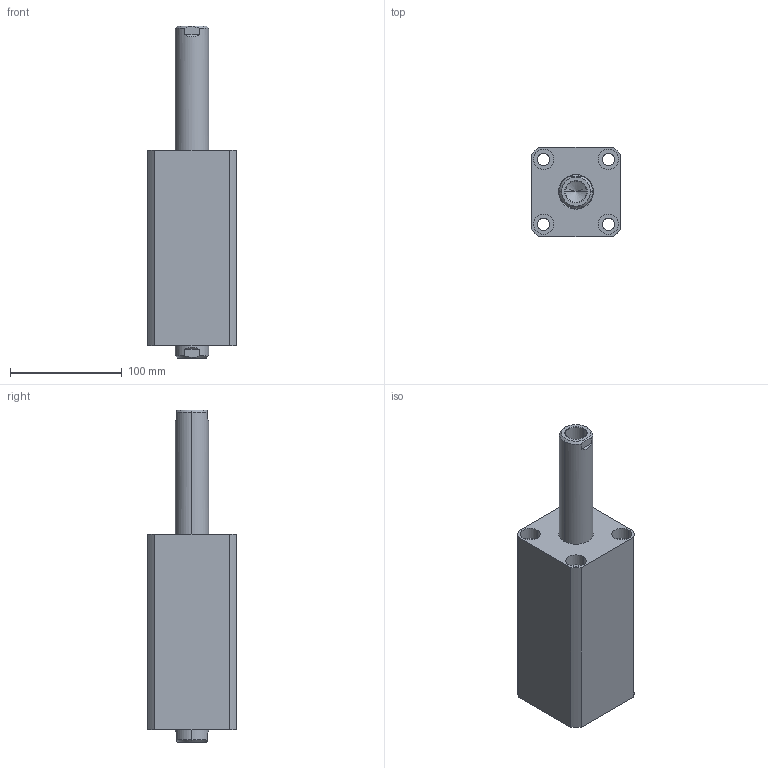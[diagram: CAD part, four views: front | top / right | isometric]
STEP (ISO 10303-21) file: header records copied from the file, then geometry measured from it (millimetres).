
FILE_DESCRIPTION (( 'STEP AP203' ), '1' );
FILE_NAME ('CHTB-SW50-100N.STEP', '2018-05-21T07:59:47', ( '' ), ( '' ), 'SwSTEP 2.0', 'SolidWorks 2015', '' );
FILE_SCHEMA (( 'CONFIG_CONTROL_DESIGN' ));
Length unit declared in the file: millimetre
Products named in the file (4): 活塞杆SW50-100N; 掛极SW50-100N; CHTB-SW50-100N; ヶ裔
Assembly tree (3 placements, depth 2):
  CHTB-SW50-100N
    掛极SW50-100N
    活塞杆SW50-100N
    ヶ裔
Bounding box: 80 x 80 x 297 mm (x, y, z)
Volume: 958191.5 mm3; surface area: 170967.1 mm2
Topology: 3 solids, 3 shells, 225 faces, 528 edges, 331 vertices
Faces by surface type: cylinder 118, plane 46, cone 33, torus 24, bspline 4
Entity records: 9698 total; most frequent: CARTESIAN_POINT 4235, DIRECTION 1104, ORIENTED_EDGE 1040, EDGE_CURVE 520, AXIS2_PLACEMENT_3D 462, VERTEX_POINT 331, EDGE_LOOP 271, CIRCLE 235
